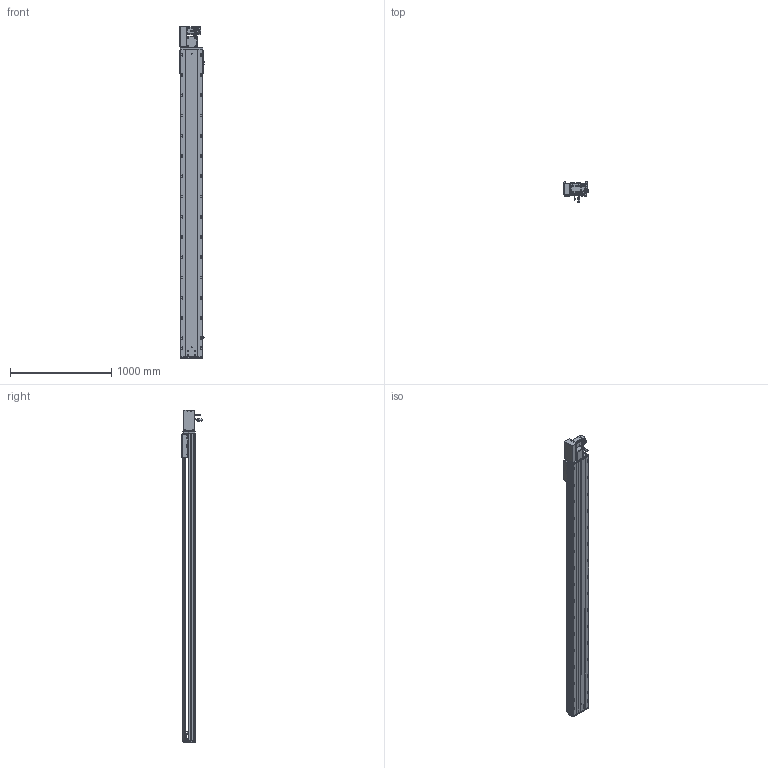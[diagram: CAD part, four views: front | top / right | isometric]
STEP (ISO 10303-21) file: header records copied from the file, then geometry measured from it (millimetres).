
FILE_DESCRIPTION (( 'STEP AP203' ), '1' );
FILE_NAME ('RY220-T-300-LK.SLDASM_2700.step', '2022-07-25T08:16:12', ( '' ), ( '' ), 'SwSTEP 2.0', 'SolidWorks 2016', '' );
FILE_SCHEMA (( 'CONFIG_CONTROL_DESIGN' ));
Length unit declared in the file: millimetre
Products named in the file (14): 怢湛750W_ECMA-CX0807ES; RY220-俋离672覜茼んえ; RY220翋肮祭謫釱; RY220翋肮祭謫裔啣; RY220-T-300-LK.SLDASM_2700; RY220圉猾敕々湍臏賑輸; 滅袉蝶18-15; RY220-T-300-奻裔啣_2700; RY220-同步轮副支撑座6304×2; RY220-T菁釱-300_2700; 覜茼ん672; RY220-T-湍謫欶(鍼踢); RY220-T-蛌殏萇儂假蚾啣(750W); 110A-T-肮祭謫釱傷裔
Assembly tree (18 placements, depth 2):
  RY220-T-300-LK.SLDASM_2700
    RY220-T菁釱-300_2700
    RY220翋肮祭謫釱
    覜茼ん672  x3
    RY220圉猾敕々湍臏賑輸
    RY220-T-300-奻裔啣_2700
    RY220-俋离672覜茼んえ
    滅袉蝶18-15  x3
    RY220翋肮祭謫裔啣  x2
    110A-T-肮祭謫釱傷裔
    怢湛750W_ECMA-CX0807ES
    RY220-T-湍謫欶(鍼踢)
    RY220-T-蛌殏萇儂假蚾啣(750W)
    RY220-同步轮副支撑座6304×2
Bounding box: 239.7 x 198.77 x 3279 mm (x, y, z)
Volume: 23260264.3 mm3; surface area: 7166652.2 mm2
Topology: 19 solids, 19 shells, 2974 faces, 8227 edges, 5158 vertices
Faces by surface type: cylinder 1462, plane 1069, cone 361, bspline 56, sphere 16, torus 10
Entity records: 99203 total; most frequent: CARTESIAN_POINT 28019, ORIENTED_EDGE 14714, DIRECTION 14184, EDGE_CURVE 7357, AXIS2_PLACEMENT_3D 5112, VERTEX_POINT 4782, VECTOR 3960, LINE 3960
